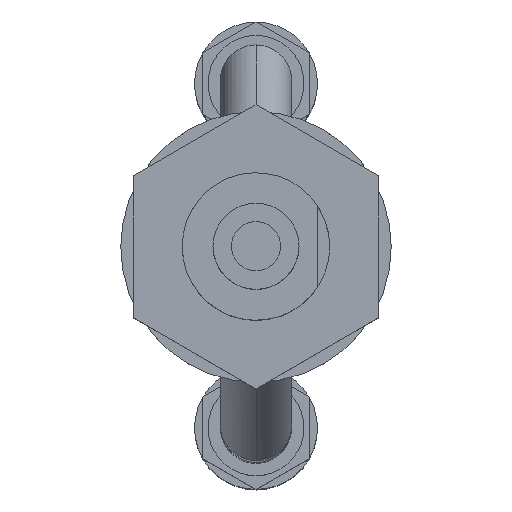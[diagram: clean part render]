
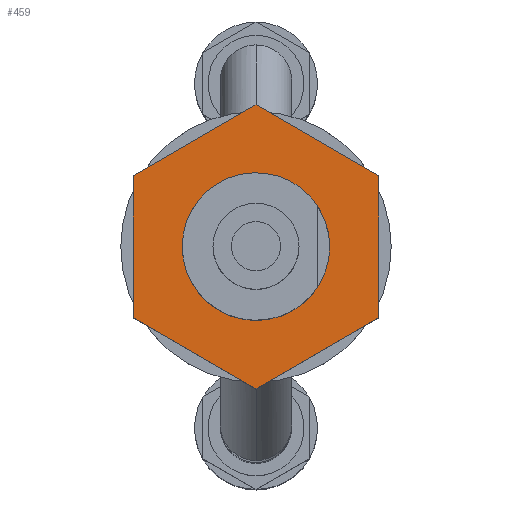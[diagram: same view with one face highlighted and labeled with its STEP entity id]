
A CAD part, top view. The second image highlights one B-rep face of the part: STEP entity #459.
In plain terms, the highlighted planar face has unit normal (0, 0, 1) as drawn and (-1, 0, 0) by its records, which use the part's own axes.
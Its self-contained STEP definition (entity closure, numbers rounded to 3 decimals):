
#400 = VERTEX_POINT ( 'NONE', #1738 ) ;
#403 = EDGE_CURVE ( 'NONE', #400, #404, #1737, .T. ) ;
#404 = VERTEX_POINT ( 'NONE', #1732 ) ;
#445 = EDGE_CURVE ( 'NONE', #473, #475, #1803, .T. ) ;
#446 = ORIENTED_EDGE ( 'NONE', *, *, #447, .T. ) ;
#447 = EDGE_CURVE ( 'NONE', #475, #463, #1799, .T. ) ;
#448 = EDGE_LOOP ( 'NONE', ( #449, #450 ) ) ;
#449 = ORIENTED_EDGE ( 'NONE', *, *, #403, .F. ) ;
#450 = ORIENTED_EDGE ( 'NONE', *, *, #451, .F. ) ;
#451 = EDGE_CURVE ( 'NONE', #404, #400, #1795, .T. ) ;
#459 = ADVANCED_FACE ( 'NONE', ( #1841, #1840 ), #1839, .F. ) ;
#460 = EDGE_LOOP ( 'NONE', ( #461, #465, #468, #471, #474, #446 ) ) ;
#461 = ORIENTED_EDGE ( 'NONE', *, *, #462, .T. ) ;
#462 = EDGE_CURVE ( 'NONE', #463, #464, #1834, .T. ) ;
#463 = VERTEX_POINT ( 'NONE', #1830 ) ;
#464 = VERTEX_POINT ( 'NONE', #1829 ) ;
#465 = ORIENTED_EDGE ( 'NONE', *, *, #466, .T. ) ;
#466 = EDGE_CURVE ( 'NONE', #464, #467, #1828, .T. ) ;
#467 = VERTEX_POINT ( 'NONE', #1824 ) ;
#468 = ORIENTED_EDGE ( 'NONE', *, *, #469, .T. ) ;
#469 = EDGE_CURVE ( 'NONE', #467, #470, #1823, .T. ) ;
#470 = VERTEX_POINT ( 'NONE', #1819 ) ;
#471 = ORIENTED_EDGE ( 'NONE', *, *, #472, .T. ) ;
#472 = EDGE_CURVE ( 'NONE', #470, #473, #1886, .T. ) ;
#473 = VERTEX_POINT ( 'NONE', #1882 ) ;
#474 = ORIENTED_EDGE ( 'NONE', *, *, #445, .T. ) ;
#475 = VERTEX_POINT ( 'NONE', #1881 ) ;
#1732 = CARTESIAN_POINT ( 'NONE',  ( -10., -3., 0. ) ) ;
#1733 = DIRECTION ( 'NONE',  ( 0., -1., 0. ) ) ;
#1734 = DIRECTION ( 'NONE',  ( -1., 0., 0. ) ) ;
#1735 = CARTESIAN_POINT ( 'NONE',  ( -10., 0., 0. ) ) ;
#1736 = AXIS2_PLACEMENT_3D ( 'NONE', #1735, #1734, #1733 ) ;
#1737 = CIRCLE ( 'NONE', #1736, 3. ) ;
#1738 = CARTESIAN_POINT ( 'NONE',  ( -10., 3., 0. ) ) ;
#1791 = DIRECTION ( 'NONE',  ( 0., -1., 0. ) ) ;
#1792 = DIRECTION ( 'NONE',  ( -1., 0., 0. ) ) ;
#1793 = CARTESIAN_POINT ( 'NONE',  ( -10., 0., 0. ) ) ;
#1794 = AXIS2_PLACEMENT_3D ( 'NONE', #1793, #1792, #1791 ) ;
#1795 = CIRCLE ( 'NONE', #1794, 3. ) ;
#1796 = DIRECTION ( 'NONE',  ( 0., 1., 0. ) ) ;
#1797 = VECTOR ( 'NONE', #1796, 1000. ) ;
#1798 = CARTESIAN_POINT ( 'NONE',  ( -10., -2.887, 5. ) ) ;
#1799 = LINE ( 'NONE', #1798, #1797 ) ;
#1800 = DIRECTION ( 'NONE',  ( 0., 0.5, 0.866 ) ) ;
#1801 = VECTOR ( 'NONE', #1800, 1000. ) ;
#1802 = CARTESIAN_POINT ( 'NONE',  ( -10., -5.774, 0. ) ) ;
#1803 = LINE ( 'NONE', #1802, #1801 ) ;
#1819 = CARTESIAN_POINT ( 'NONE',  ( -10., -2.887, -5. ) ) ;
#1820 = DIRECTION ( 'NONE',  ( 0., -1., 0. ) ) ;
#1821 = VECTOR ( 'NONE', #1820, 1000. ) ;
#1822 = CARTESIAN_POINT ( 'NONE',  ( -10., 2.887, -5. ) ) ;
#1823 = LINE ( 'NONE', #1822, #1821 ) ;
#1824 = CARTESIAN_POINT ( 'NONE',  ( -10., 2.887, -5. ) ) ;
#1825 = DIRECTION ( 'NONE',  ( 0., -0.5, -0.866 ) ) ;
#1826 = VECTOR ( 'NONE', #1825, 1000. ) ;
#1827 = CARTESIAN_POINT ( 'NONE',  ( -10., 5.774, 0. ) ) ;
#1828 = LINE ( 'NONE', #1827, #1826 ) ;
#1829 = CARTESIAN_POINT ( 'NONE',  ( -10., 5.774, 0. ) ) ;
#1830 = CARTESIAN_POINT ( 'NONE',  ( -10., 2.887, 5. ) ) ;
#1831 = DIRECTION ( 'NONE',  ( 0., 0.5, -0.866 ) ) ;
#1832 = VECTOR ( 'NONE', #1831, 1000. ) ;
#1833 = CARTESIAN_POINT ( 'NONE',  ( -10., 2.887, 5. ) ) ;
#1834 = LINE ( 'NONE', #1833, #1832 ) ;
#1835 = DIRECTION ( 'NONE',  ( 0., 1., 0. ) ) ;
#1836 = DIRECTION ( 'NONE',  ( 1., 0., 0. ) ) ;
#1837 = CARTESIAN_POINT ( 'NONE',  ( -10., 0., 10. ) ) ;
#1838 = AXIS2_PLACEMENT_3D ( 'NONE', #1837, #1836, #1835 ) ;
#1839 = PLANE ( 'NONE',  #1838 ) ;
#1840 = FACE_BOUND ( 'NONE', #448, .T. ) ;
#1841 = FACE_OUTER_BOUND ( 'NONE', #460, .T. ) ;
#1881 = CARTESIAN_POINT ( 'NONE',  ( -10., -2.887, 5. ) ) ;
#1882 = CARTESIAN_POINT ( 'NONE',  ( -10., -5.774, 0. ) ) ;
#1883 = DIRECTION ( 'NONE',  ( 0., -0.5, 0.866 ) ) ;
#1884 = VECTOR ( 'NONE', #1883, 1000. ) ;
#1885 = CARTESIAN_POINT ( 'NONE',  ( -10., -2.887, -5. ) ) ;
#1886 = LINE ( 'NONE', #1885, #1884 ) ;
